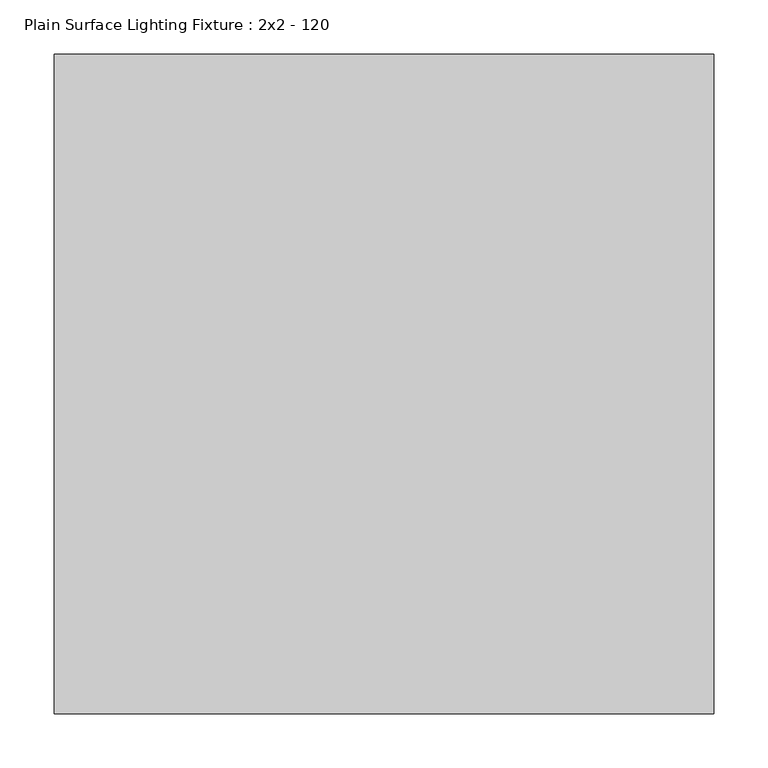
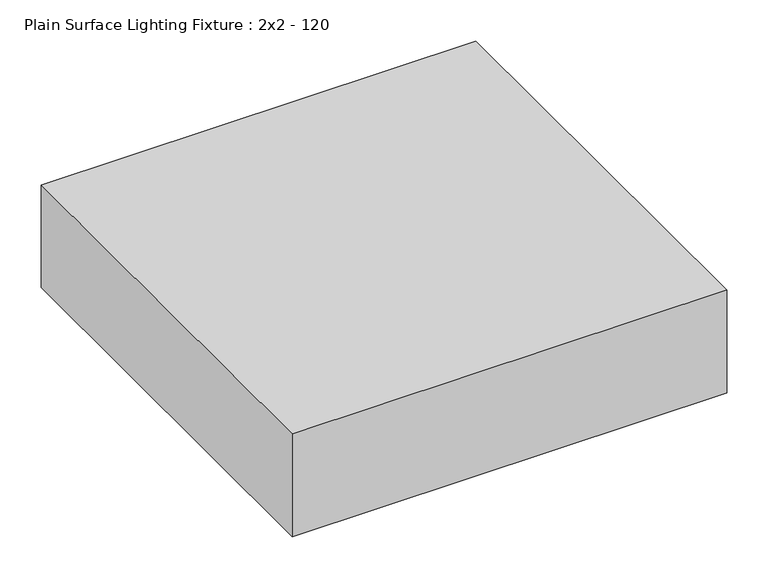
"""IFC4 building model written with IfcOpenShell, lengths in millimetres: light fixture geometry, Plain Surface Lighting Fixture : 2x2 - 120."""

import ifcopenshell
import ifcopenshell.guid

model = None  # the IFC model being written
_history = None  # IfcOwnerHistory: only IFC2X3 demands one
_inside = {}  # id of a spatial element -> (the spatial element, [elements in it])
_under = {}  # id of a project, library or spatial element -> (it, [spatial elements below it])
_declared = {}  # id of a project -> (the project, [libraries it declares])
_typed = {}  # id of a type object -> (the type object, [elements of that type])
_made_of = {}  # id of a material, layer set ... -> (it, [elements and type objects made of it])


def new_model(schema):
    """Start an empty IFC model of exactly this schema.

    Asked for "IFC4X3", IfcOpenShell would pick the latest addendum, in which some entities
    have other attributes; the version numbers below select the first issue.
    IFC2X3 requires an IfcOwnerHistory on every rooted entity: one is made here for all.
    """
    global model, _history
    if schema == "IFC4X3":
        model = ifcopenshell.file(schema_version=(4, 3, 0, 0))
    else:
        model = ifcopenshell.file(schema=schema)
    _inside.clear()
    _under.clear()
    _declared.clear()
    _typed.clear()
    _made_of.clear()
    _history = None
    if model.schema == "IFC2X3":
        org = make("IfcOrganization", Name="unknown")
        user = make(
            "IfcPersonAndOrganization",
            ThePerson=make("IfcPerson", FamilyName="unknown"),
            TheOrganization=org,
        )
        app = make(
            "IfcApplication",
            ApplicationDeveloper=org,
            Version="unknown",
            ApplicationFullName="unknown",
            ApplicationIdentifier="unknown",
        )
        _history = make(
            "IfcOwnerHistory",
            OwningUser=user,
            OwningApplication=app,
            ChangeAction="ADDED",
            CreationDate=0,
        )
    return model


def make(cls, **values):
    """One entity of the class cls with the attributes given. An attribute that is None is left unset."""
    return model.create_entity(
        cls, **{name: value for name, value in values.items() if value is not None}
    )


def rooted(cls, **values):
    """An entity with a GlobalId (a new one), such as an element, a storey or a relation."""
    return make(cls, GlobalId=ifcopenshell.guid.new(), OwnerHistory=_history, **values)


def si_unit(unit_type, name, prefix=None):
    """IfcSIUnit, for example si_unit("LENGTHUNIT", "METRE", prefix="MILLI")."""
    return make("IfcSIUnit", UnitType=unit_type, Prefix=prefix, Name=name)


def assignment(units):
    """IfcUnitAssignment: the units of a project."""
    return None if units is None else make("IfcUnitAssignment", Units=units)


def point(xyz):
    """IfcCartesianPoint."""
    return None if xyz is None else make("IfcCartesianPoint", Coordinates=xyz)


def direction(xyz):
    """IfcDirection."""
    return None if xyz is None else make("IfcDirection", DirectionRatios=xyz)


def frame(location, z_axis=None, x_axis=None):
    """IfcAxis2Placement3D, a coordinate frame: its origin and axes. An axis left out is left unset."""
    return make(
        "IfcAxis2Placement3D",
        Location=point(location),
        Axis=direction(z_axis),
        RefDirection=direction(x_axis),
    )


def origin():
    """The frame at (0, 0, 0) with its axes left unset."""
    return frame((0.0, 0.0, 0.0))


def origin_with_axes():
    """The frame at (0, 0, 0) with the z axis (0, 0, 1) and the x axis (1, 0, 0) written out."""
    return frame((0.0, 0.0, 0.0), z_axis=(0.0, 0.0, 1.0), x_axis=(1.0, 0.0, 0.0))


def place(relative_to, where):
    """IfcLocalPlacement: puts the frame where relative to a parent placement (None: the world)."""
    return make(
        "IfcLocalPlacement", PlacementRelTo=relative_to, RelativePlacement=where
    )


def context(
    kind, dimensions, precision=None, world=None, true_north=None, identifier=None
):
    """IfcGeometricRepresentationContext, for example the 3D "Model" context."""
    return make(
        "IfcGeometricRepresentationContext",
        ContextIdentifier=identifier,
        ContextType=kind,
        CoordinateSpaceDimension=dimensions,
        Precision=precision,
        WorldCoordinateSystem=world,
        TrueNorth=true_north,
    )


def project(units=None, contexts=None):
    """IfcProject with its units and contexts."""
    return rooted(
        "IfcProject",
        Name="project",
        RepresentationContexts=contexts,
        UnitsInContext=assignment(units),
    )


def spatial(cls, under=None, at=None, **own):
    """A site, building, storey or space (cls), placed at a placement, below another one or the project."""
    s = rooted(cls, ObjectPlacement=at, **own)
    if under is not None:
        _under.setdefault(under.id(), (under, []))[1].append(s)
    return s


def polyline(points):
    """IfcPolyline through the points."""
    return make("IfcPolyline", Points=[point(p) for p in points])


def outline(outer, holes=None, kind="AREA"):
    """IfcArbitraryClosedProfileDef: a profile drawn as a closed curve; with holes, ...WithVoids."""
    if holes is None:
        return make("IfcArbitraryClosedProfileDef", ProfileType=kind, OuterCurve=outer)
    return make(
        "IfcArbitraryProfileDefWithVoids",
        ProfileType=kind,
        OuterCurve=outer,
        InnerCurves=holes,
    )


def extrude(swept, where, along, depth):
    """IfcExtrudedAreaSolid: the profile swept, set in the frame where, extruded along a direction by depth."""
    return make(
        "IfcExtrudedAreaSolid",
        SweptArea=swept,
        Position=where,
        ExtrudedDirection=direction(along),
        Depth=depth,
    )


def shape(context_of_items, identifier, shape_type, items):
    """IfcShapeRepresentation: the items that make up one representation, for example the "Body"."""
    return make(
        "IfcShapeRepresentation",
        ContextOfItems=context_of_items,
        RepresentationIdentifier=identifier,
        RepresentationType=shape_type,
        Items=items,
    )


def source(mapping_origin, context_of_items, identifier, shape_type, items):
    """IfcRepresentationMap: a shape defined once, which mapped items show again and again."""
    return make(
        "IfcRepresentationMap",
        MappingOrigin=mapping_origin,
        MappedRepresentation=shape(context_of_items, identifier, shape_type, items),
    )


def transform(
    local_origin,
    x_axis=None,
    y_axis=None,
    z_axis=None,
    scale=None,
    scale2=None,
    scale3=None,
    uniform=True,
):
    """IfcCartesianTransformationOperator3D, or its non-uniform kind. x_axis, y_axis, z_axis: its Axis1, 2, 3."""
    if uniform:
        return make(
            "IfcCartesianTransformationOperator3D",
            Axis1=direction(x_axis),
            Axis2=direction(y_axis),
            LocalOrigin=point(local_origin),
            Scale=scale,
            Axis3=direction(z_axis),
        )
    return make(
        "IfcCartesianTransformationOperator3DnonUniform",
        Axis1=direction(x_axis),
        Axis2=direction(y_axis),
        LocalOrigin=point(local_origin),
        Scale=scale,
        Axis3=direction(z_axis),
        Scale2=scale2,
        Scale3=scale3,
    )


def mapped(mapping_source, mapping_target):
    """IfcMappedItem: shows the shape of a source again, moved by a transform."""
    return make(
        "IfcMappedItem", MappingSource=mapping_source, MappingTarget=mapping_target
    )


def made_of(thing, what):
    """Note that an element or type object is made of a material, layer set ...; save() writes the relation."""
    if what is not None:
        _made_of.setdefault(what.id(), (what, []))[1].append(thing)
    return thing


def element(
    cls,
    number,
    at=None,
    inside=None,
    cuts=None,
    type_object=None,
    material=None,
    context=None,
    identifier="Body",
    shape_type=None,
    held_by="IfcProductDefinitionShape",
    body=None,
    shapes=None,
    **own,
):
    """One element of the class cls, such as IfcWall. Its Tag is "e" and its number.

    at: its placement. inside: the storey or other place that contains it. cuts: it is an
    opening in that element (IfcRelVoidsElement). A single representation is given by context,
    identifier, shape_type and body (its items); several are given by shapes. held_by: the class
    of the entity that holds the representations. save() writes the other relations.
    """
    e = rooted(cls, Tag="e%d" % number, ObjectPlacement=at, **own)
    if body is not None:
        shapes = [shape(context, identifier, shape_type, body)]
    if shapes is not None:
        e.Representation = make(held_by, Representations=shapes)
    if inside is not None:
        _inside.setdefault(inside.id(), (inside, []))[1].append(e)
    if cuts is not None:
        rooted(
            "IfcRelVoidsElement", RelatingBuildingElement=cuts, RelatedOpeningElement=e
        )
    if type_object is not None:
        _typed.setdefault(type_object.id(), (type_object, []))[1].append(e)
    return made_of(e, material)


def aggregate(whole, parts):
    """IfcRelAggregates: a whole, such as a stair, and the parts it consists of."""
    return rooted("IfcRelAggregates", RelatingObject=whole, RelatedObjects=parts)


def save(model, path):
    """Write the relations noted so far, then the file.

    IfcRelAggregates (storeys below a building ...), IfcRelContainedInSpatialStructure (elements
    in a storey), IfcRelDefinesByType, IfcRelAssociatesMaterial and IfcRelDeclares: one each for
    every whole, place, type object, material and project.
    """
    for whole, parts in _under.values():
        aggregate(whole, parts)
    for where, things in _inside.values():
        rooted(
            "IfcRelContainedInSpatialStructure",
            RelatedElements=things,
            RelatingStructure=where,
        )
    for kind, things in _typed.values():
        rooted("IfcRelDefinesByType", RelatedObjects=things, RelatingType=kind)
    for what, things in _made_of.values():
        rooted("IfcRelAssociatesMaterial", RelatedObjects=things, RelatingMaterial=what)
    for by, libraries in _declared.values():
        rooted("IfcRelDeclares", RelatingContext=by, RelatedDefinitions=libraries)
    model.write(path)


def plain_surface_lighting_fixture_2x2_120_4620b5b5(model_context):
    return source(origin(), model_context, "Body", "SweptSolid", [
        extrude(outline(polyline([(-329.2521354, 738.5213005), (-329.2521354, 128.9213005), (-938.8521354, 128.9213005), (-938.8521354, 738.5213005), (-329.2521354, 738.5213005)])), origin_with_axes(), (0.0, 0.0, 1.0), 152.4),
    ])


if __name__ == "__main__":
    model = new_model("IFC4")
    model_context = context("Model", 3, world=origin())
    ifc_project = project(units=[si_unit("LENGTHUNIT", "METRE", prefix="MILLI")], contexts=[model_context])
    site = spatial("IfcSite", under=ifc_project)
    building = spatial("IfcBuilding", under=site)
    placement = place(None, origin())
    plain_surface_lighting_fixture_2x2_120_shape = plain_surface_lighting_fixture_2x2_120_4620b5b5(model_context)
    element("IfcLightFixture", 1, ObjectType="Plain Surface Lighting Fixture : 2x2 - 120", at=placement, inside=building, context=model_context, shape_type="MappedRepresentation", body=[
        mapped(plain_surface_lighting_fixture_2x2_120_shape, transform((0.0, 0.0, 0.0), x_axis=(1.0, 0.0, 0.0), y_axis=(0.0, 1.0, 0.0), z_axis=(0.0, 0.0, 1.0))),
    ])
    save(model, "model.ifc")
